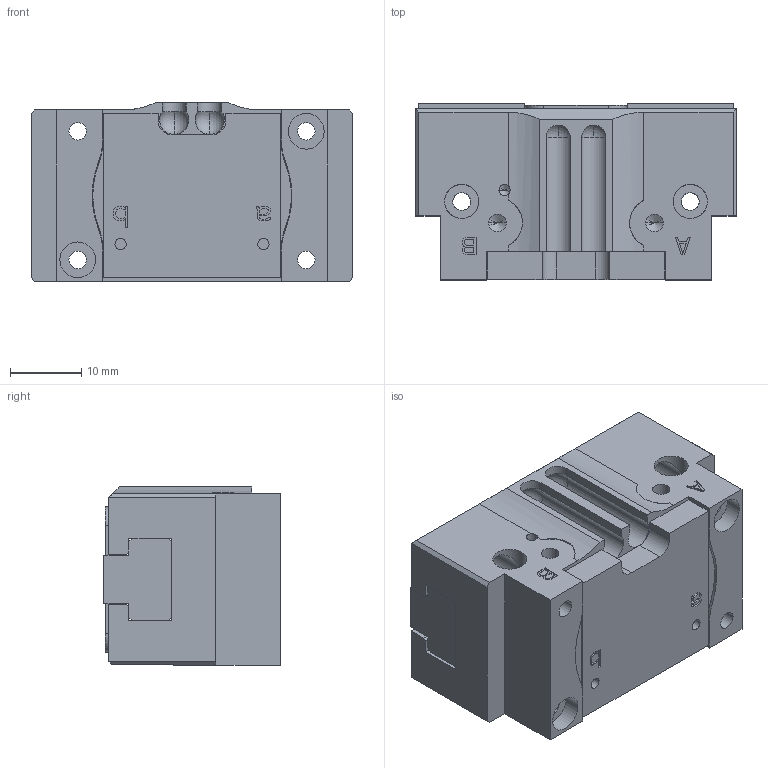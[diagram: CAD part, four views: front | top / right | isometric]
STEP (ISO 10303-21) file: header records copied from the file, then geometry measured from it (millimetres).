
FILE_DESCRIPTION (( 'STEP AP214' ), '1' );
FILE_NAME ('f210101fpt40a-1.STEP', '2020-05-16T03:40:04', ( '' ), ( '' ), 'SwSTEP 2.0', 'SolidWorks 2016', '' );
FILE_SCHEMA (( 'AUTOMOTIVE_DESIGN' ));
Length unit declared in the file: millimetre
Products named in the file (5): NAUO3; f210101fpt40a-1; NAUO1; NAUO2; NAUO6
Assembly tree (5 placements, depth 2):
  f210101fpt40a-1
    NAUO1
    NAUO2
    NAUO3
    NAUO6  x2
Bounding box: 45 x 24.7 x 25 mm (x, y, z)
Volume: 21683 mm3; surface area: 13087.2 mm2
Topology: 5 solids, 5 shells, 455 faces, 1209 edges, 769 vertices
Faces by surface type: plane 278, cylinder 127, cone 46, sphere 4
Entity records: 13197 total; most frequent: CARTESIAN_POINT 2472, ORIENTED_EDGE 2182, DIRECTION 2173, EDGE_CURVE 1091, LINE 817, VECTOR 817, VERTEX_POINT 715, AXIS2_PLACEMENT_3D 678
